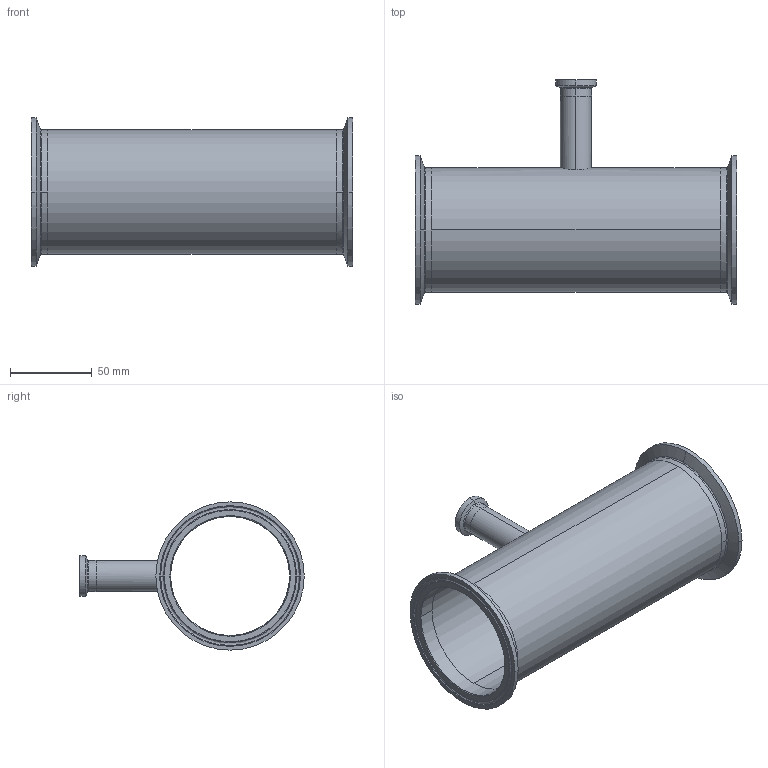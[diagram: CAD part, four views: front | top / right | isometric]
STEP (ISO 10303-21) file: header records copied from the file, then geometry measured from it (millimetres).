
FILE_DESCRIPTION (( 'STEP AP214' ), '1' );
FILE_NAME ('TEG7R6L3.0x.75-...STEP', '2016-05-24T07:00:00', ( 'eran' ), ( '' ), 'SwSTEP 2.0', 'SolidWorks 2016', '' );
FILE_SCHEMA (( 'AUTOMOTIVE_DESIGN' ));
Length unit declared in the file: millimetre
Products named in the file (1): TEG7R6L3.0x.75-..
Bounding box: 196.8 x 137.55 x 90.91 mm (x, y, z)
Volume: 96566.3 mm3; surface area: 107934.9 mm2
Topology: 4 solids, 4 shells, 84 faces, 198 edges, 126 vertices
Faces by surface type: cylinder 28, bspline 28, cone 16, plane 12
Entity records: 4187 total; most frequent: CARTESIAN_POINT 2201, DIRECTION 426, ORIENTED_EDGE 396, EDGE_CURVE 198, AXIS2_PLACEMENT_3D 191, CIRCLE 134, VERTEX_POINT 126, EDGE_LOOP 98
